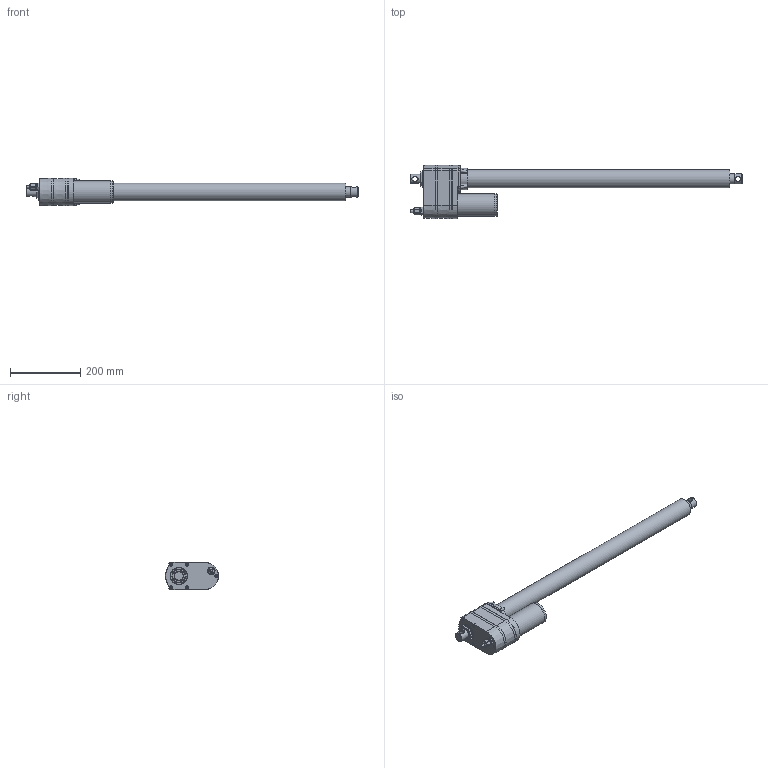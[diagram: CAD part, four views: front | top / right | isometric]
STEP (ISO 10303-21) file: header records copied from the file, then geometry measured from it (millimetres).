
FILE_DESCRIPTION(/* description */ ('STEP AP203'),/* implementation_level */ '2;1');
FILE_NAME(/* name */ 'ID10K-12-G4A-40-610-0000L50(0)',/* time_stamp */ '2023-08-17T12:29:33+02:00',/* author */ ('License CC BY-ND 4.0'),/* organization */ ('CADENAS'),/* preprocessor_version */ 'ST-DEVELOPER v19.3',/* originating_system */ 'PARTsolutions',/* authorisation */ ' ');
FILE_SCHEMA (('CONFIG_CONTROL_DESIGN'));
Length unit declared in the file: millimetre
Products named in the file (3): ID10K-12-G4A-40-610-0000L50(0); ID10-12-G5A-40-610-0000L500(0)_rod; ID10-12-G5A-40-610-0000L500(0)_body
Assembly tree (2 placements, depth 2):
  ID10K-12-G4A-40-610-0000L50(0)
    ID10-12-G5A-40-610-0000L500(0)_rod
    ID10-12-G5A-40-610-0000L500(0)_body
Bounding box: 943.5 x 151.7 x 77.2 mm (x, y, z)
Volume: 3048468.3 mm3; surface area: 338459.9 mm2
Topology: 2 solids, 2 shells, 1255 faces, 3002 edges, 1786 vertices
Faces by surface type: plane 1127, cylinder 67, cone 35, bspline 16, torus 10
Full cylindrical faces by diameter (mm): 7.2 x1, 8.5 x7, 9 x5, 13 x2, 15.75 x2, 21 x1, 26 x1, 28 x1, 28.6 x2, 28.62 x1, 48.2 x1, 50.8 x1, 63.2 x1, 63.5 x2
Entity records: 44399 total; most frequent: CARTESIAN_POINT 6399, DIRECTION 6304, ORIENTED_EDGE 5876, EDGE_CURVE 2938, AXIS2_PLACEMENT_3D 2178, LINE 1948, VECTOR 1948, VERTEX_POINT 1772
